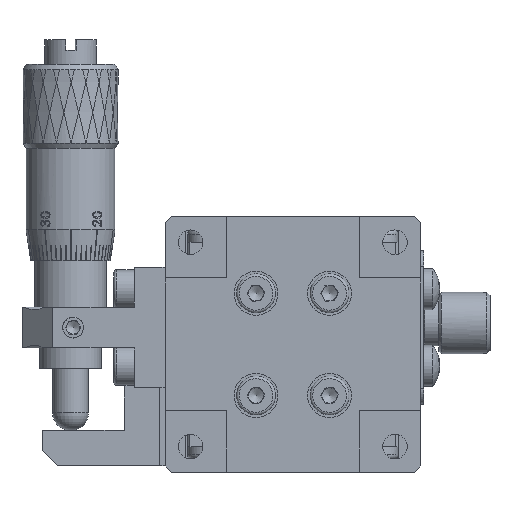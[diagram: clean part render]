
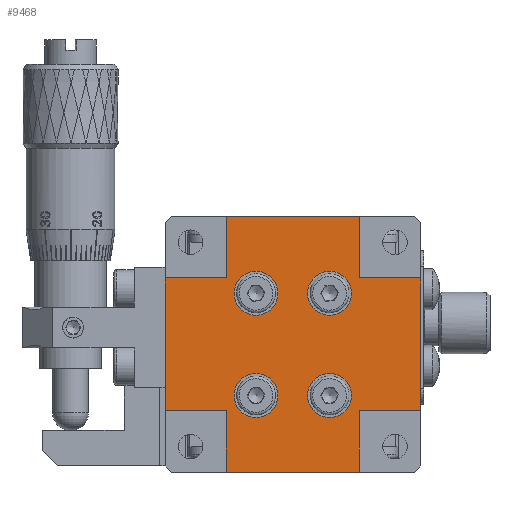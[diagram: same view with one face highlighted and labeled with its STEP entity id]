
A CAD part, front view. The second image highlights one B-rep face of the part: STEP entity #9468.
In plain terms, the highlighted planar face has unit normal (0, -1, 0).
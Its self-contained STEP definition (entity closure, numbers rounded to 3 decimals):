
#835 = CARTESIAN_POINT ( 'NONE',  ( 25., 0.25, 19. ) ) ;
#1030 = VECTOR ( 'NONE', #12237, 1000. ) ;
#1068 = ORIENTED_EDGE ( 'NONE', *, *, #6418, .T. ) ;
#1201 = VERTEX_POINT ( 'NONE', #10368 ) ;
#1899 = ORIENTED_EDGE ( 'NONE', *, *, #28899, .F. ) ;
#2114 = ORIENTED_EDGE ( 'NONE', *, *, #24095, .F. ) ;
#2417 = CIRCLE ( 'NONE', #39807, 2.15 ) ;
#2510 = EDGE_CURVE ( 'NONE', #12982, #12982, #11987, .T. ) ;
#2531 = DIRECTION ( 'NONE',  ( 0., 0., -1. ) ) ;
#3065 = EDGE_CURVE ( 'NONE', #32689, #1201, #9678, .T. ) ;
#3237 = CARTESIAN_POINT ( 'NONE',  ( 0., 0.25, 19. ) ) ;
#3343 = CARTESIAN_POINT ( 'NONE',  ( 6., 0.25, 19. ) ) ;
#3406 = DIRECTION ( 'NONE',  ( 1., 0., 0. ) ) ;
#3673 = DIRECTION ( 'NONE',  ( 0., 0., -1. ) ) ;
#3735 = CARTESIAN_POINT ( 'NONE',  ( 25., 0.25, 6. ) ) ;
#4442 = ORIENTED_EDGE ( 'NONE', *, *, #29998, .F. ) ;
#4730 = CARTESIAN_POINT ( 'NONE',  ( 6., 0.25, 25. ) ) ;
#4878 = ORIENTED_EDGE ( 'NONE', *, *, #39461, .T. ) ;
#4975 = ORIENTED_EDGE ( 'NONE', *, *, #17100, .T. ) ;
#5425 = CARTESIAN_POINT ( 'NONE',  ( 16.1, 0.25, 5.35 ) ) ;
#5801 = FACE_BOUND ( 'NONE', #25887, .T. ) ;
#6329 = CARTESIAN_POINT ( 'NONE',  ( 19., 0.25, 25. ) ) ;
#6397 = CARTESIAN_POINT ( 'NONE',  ( 19., 0.25, 25. ) ) ;
#6418 = EDGE_CURVE ( 'NONE', #16784, #16784, #25192, .T. ) ;
#6669 = DIRECTION ( 'NONE',  ( -1., 0., 0. ) ) ;
#6738 = VECTOR ( 'NONE', #44521, 1000. ) ;
#6959 = CARTESIAN_POINT ( 'NONE',  ( 12.5, 0.25, 12.5 ) ) ;
#7658 = EDGE_CURVE ( 'NONE', #41305, #41305, #24212, .T. ) ;
#7942 = ORIENTED_EDGE ( 'NONE', *, *, #45325, .F. ) ;
#8575 = CARTESIAN_POINT ( 'NONE',  ( 25., 0.25, 25. ) ) ;
#8757 = VERTEX_POINT ( 'NONE', #14952 ) ;
#8953 = VERTEX_POINT ( 'NONE', #835 ) ;
#9468 = ADVANCED_FACE ( 'NONE', ( #23281, #37243, #5801, #31752, #10616 ), #28092, .T. ) ;
#9678 = LINE ( 'NONE', #14047, #35496 ) ;
#10028 = EDGE_LOOP ( 'NONE', ( #33710 ) ) ;
#10050 = CARTESIAN_POINT ( 'NONE',  ( 25., 0.25, 0. ) ) ;
#10185 = VERTEX_POINT ( 'NONE', #6397 ) ;
#10368 = CARTESIAN_POINT ( 'NONE',  ( 19., 0.25, 0. ) ) ;
#10379 = DIRECTION ( 'NONE',  ( -1., 0., 0. ) ) ;
#10587 = LINE ( 'NONE', #24172, #27519 ) ;
#10616 = FACE_OUTER_BOUND ( 'NONE', #19158, .T. ) ;
#11464 = EDGE_LOOP ( 'NONE', ( #4975 ) ) ;
#11637 = CARTESIAN_POINT ( 'NONE',  ( 0., 0.25, 6. ) ) ;
#11987 = CIRCLE ( 'NONE', #28205, 2.15 ) ;
#12237 = DIRECTION ( 'NONE',  ( -1., 0., 0. ) ) ;
#12409 = DIRECTION ( 'NONE',  ( 0., 1., 0. ) ) ;
#12457 = LINE ( 'NONE', #8575, #1030 ) ;
#12982 = VERTEX_POINT ( 'NONE', #23573 ) ;
#13369 = DIRECTION ( 'NONE',  ( 0., -1., 0. ) ) ;
#13742 = VERTEX_POINT ( 'NONE', #3343 ) ;
#13776 = EDGE_CURVE ( 'NONE', #10185, #24840, #44393, .T. ) ;
#13960 = DIRECTION ( 'NONE',  ( 0., 0., -1. ) ) ;
#14047 = CARTESIAN_POINT ( 'NONE',  ( 19., 0.25, 0. ) ) ;
#14211 = VECTOR ( 'NONE', #6669, 1000. ) ;
#14592 = EDGE_CURVE ( 'NONE', #44280, #13742, #20481, .T. ) ;
#14680 = CARTESIAN_POINT ( 'NONE',  ( 16.1, 0.25, 17.5 ) ) ;
#14703 = VECTOR ( 'NONE', #16275, 1000. ) ;
#14882 = CARTESIAN_POINT ( 'NONE',  ( 19., 0.25, 6. ) ) ;
#14952 = CARTESIAN_POINT ( 'NONE',  ( 6., 0.25, 0. ) ) ;
#15661 = LINE ( 'NONE', #37215, #45231 ) ;
#16158 = AXIS2_PLACEMENT_3D ( 'NONE', #6959, #13369, #45268 ) ;
#16275 = DIRECTION ( 'NONE',  ( 0., 0., 1. ) ) ;
#16326 = VECTOR ( 'NONE', #17115, 1000. ) ;
#16501 = ORIENTED_EDGE ( 'NONE', *, *, #23351, .T. ) ;
#16579 = DIRECTION ( 'NONE',  ( 0., 0., -1. ) ) ;
#16784 = VERTEX_POINT ( 'NONE', #30799 ) ;
#17100 = EDGE_CURVE ( 'NONE', #19457, #19457, #2417, .T. ) ;
#17115 = DIRECTION ( 'NONE',  ( 0., 0., -1. ) ) ;
#17873 = CARTESIAN_POINT ( 'NONE',  ( 19., 0.25, 19. ) ) ;
#18214 = CARTESIAN_POINT ( 'NONE',  ( 0., 0.25, 19. ) ) ;
#18800 = CARTESIAN_POINT ( 'NONE',  ( 25., 0.25, 19. ) ) ;
#19158 = EDGE_LOOP ( 'NONE', ( #42729, #1899, #32436, #35093, #7942, #31432, #4878, #2114, #4442, #16501, #22853, #37015 ) ) ;
#19457 = VERTEX_POINT ( 'NONE', #5425 ) ;
#19514 = LINE ( 'NONE', #40143, #14703 ) ;
#20475 = LINE ( 'NONE', #37883, #14211 ) ;
#20481 = LINE ( 'NONE', #3237, #6738 ) ;
#21370 = DIRECTION ( 'NONE',  ( 0., 1., 0. ) ) ;
#21814 = DIRECTION ( 'NONE',  ( 1., 0., 0. ) ) ;
#22853 = ORIENTED_EDGE ( 'NONE', *, *, #3065, .F. ) ;
#23231 = CARTESIAN_POINT ( 'NONE',  ( 8.9, 0.25, 17.5 ) ) ;
#23281 = FACE_BOUND ( 'NONE', #10028, .T. ) ;
#23351 = EDGE_CURVE ( 'NONE', #8757, #1201, #27757, .T. ) ;
#23573 = CARTESIAN_POINT ( 'NONE',  ( 8.9, 0.25, 5.35 ) ) ;
#23704 = VERTEX_POINT ( 'NONE', #43497 ) ;
#24095 = EDGE_CURVE ( 'NONE', #23704, #43649, #20475, .T. ) ;
#24172 = CARTESIAN_POINT ( 'NONE',  ( 25., 0.25, 25. ) ) ;
#24212 = CIRCLE ( 'NONE', #39553, 2.15 ) ;
#24840 = VERTEX_POINT ( 'NONE', #17873 ) ;
#25192 = CIRCLE ( 'NONE', #43427, 2.15 ) ;
#25711 = DIRECTION ( 'NONE',  ( 0., 1., 0. ) ) ;
#25887 = EDGE_LOOP ( 'NONE', ( #1068 ) ) ;
#27519 = VECTOR ( 'NONE', #45239, 1000. ) ;
#27757 = LINE ( 'NONE', #10050, #28890 ) ;
#28092 = PLANE ( 'NONE',  #16158 ) ;
#28205 = AXIS2_PLACEMENT_3D ( 'NONE', #29585, #25711, #43096 ) ;
#28890 = VECTOR ( 'NONE', #3406, 1000. ) ;
#28899 = EDGE_CURVE ( 'NONE', #24840, #8953, #42640, .T. ) ;
#29585 = CARTESIAN_POINT ( 'NONE',  ( 8.9, 0.25, 7.5 ) ) ;
#29859 = LINE ( 'NONE', #43809, #38392 ) ;
#29998 = EDGE_CURVE ( 'NONE', #8757, #23704, #29859, .T. ) ;
#30481 = EDGE_CURVE ( 'NONE', #10185, #34360, #12457, .T. ) ;
#30799 = CARTESIAN_POINT ( 'NONE',  ( 16.1, 0.25, 15.35 ) ) ;
#31428 = CARTESIAN_POINT ( 'NONE',  ( 16.1, 0.25, 7.5 ) ) ;
#31432 = ORIENTED_EDGE ( 'NONE', *, *, #14592, .F. ) ;
#31752 = FACE_BOUND ( 'NONE', #11464, .T. ) ;
#32236 = EDGE_CURVE ( 'NONE', #33395, #8953, #10587, .T. ) ;
#32436 = ORIENTED_EDGE ( 'NONE', *, *, #13776, .F. ) ;
#32689 = VERTEX_POINT ( 'NONE', #14882 ) ;
#33395 = VERTEX_POINT ( 'NONE', #35838 ) ;
#33710 = ORIENTED_EDGE ( 'NONE', *, *, #2510, .T. ) ;
#34360 = VERTEX_POINT ( 'NONE', #4730 ) ;
#34491 = DIRECTION ( 'NONE',  ( 0., 0., -1. ) ) ;
#35093 = ORIENTED_EDGE ( 'NONE', *, *, #30481, .T. ) ;
#35185 = LINE ( 'NONE', #3735, #42277 ) ;
#35496 = VECTOR ( 'NONE', #34491, 1000. ) ;
#35838 = CARTESIAN_POINT ( 'NONE',  ( 25., 0.25, 6. ) ) ;
#35871 = EDGE_CURVE ( 'NONE', #33395, #32689, #35185, .T. ) ;
#36073 = DIRECTION ( 'NONE',  ( 0., 0., 1. ) ) ;
#37015 = ORIENTED_EDGE ( 'NONE', *, *, #35871, .F. ) ;
#37215 = CARTESIAN_POINT ( 'NONE',  ( 0., 0.25, 25. ) ) ;
#37243 = FACE_BOUND ( 'NONE', #43460, .T. ) ;
#37531 = VECTOR ( 'NONE', #21814, 1000. ) ;
#37883 = CARTESIAN_POINT ( 'NONE',  ( 0., 0.25, 6. ) ) ;
#38392 = VECTOR ( 'NONE', #36073, 1000. ) ;
#38675 = ORIENTED_EDGE ( 'NONE', *, *, #7658, .T. ) ;
#39461 = EDGE_CURVE ( 'NONE', #44280, #43649, #15661, .T. ) ;
#39553 = AXIS2_PLACEMENT_3D ( 'NONE', #23231, #12409, #2531 ) ;
#39807 = AXIS2_PLACEMENT_3D ( 'NONE', #31428, #45397, #13960 ) ;
#40143 = CARTESIAN_POINT ( 'NONE',  ( 6., 0.25, 25. ) ) ;
#41305 = VERTEX_POINT ( 'NONE', #42001 ) ;
#42001 = CARTESIAN_POINT ( 'NONE',  ( 8.9, 0.25, 15.35 ) ) ;
#42277 = VECTOR ( 'NONE', #10379, 1000. ) ;
#42640 = LINE ( 'NONE', #18800, #37531 ) ;
#42729 = ORIENTED_EDGE ( 'NONE', *, *, #32236, .T. ) ;
#43096 = DIRECTION ( 'NONE',  ( 0., 0., -1. ) ) ;
#43427 = AXIS2_PLACEMENT_3D ( 'NONE', #14680, #21370, #3673 ) ;
#43460 = EDGE_LOOP ( 'NONE', ( #38675 ) ) ;
#43497 = CARTESIAN_POINT ( 'NONE',  ( 6., 0.25, 6. ) ) ;
#43649 = VERTEX_POINT ( 'NONE', #11637 ) ;
#43809 = CARTESIAN_POINT ( 'NONE',  ( 6., 0.25, 0. ) ) ;
#44280 = VERTEX_POINT ( 'NONE', #18214 ) ;
#44393 = LINE ( 'NONE', #6329, #16326 ) ;
#44521 = DIRECTION ( 'NONE',  ( 1., 0., 0. ) ) ;
#45231 = VECTOR ( 'NONE', #16579, 1000. ) ;
#45239 = DIRECTION ( 'NONE',  ( 0., 0., 1. ) ) ;
#45268 = DIRECTION ( 'NONE',  ( 0., 0., -1. ) ) ;
#45325 = EDGE_CURVE ( 'NONE', #13742, #34360, #19514, .T. ) ;
#45397 = DIRECTION ( 'NONE',  ( 0., 1., 0. ) ) ;
